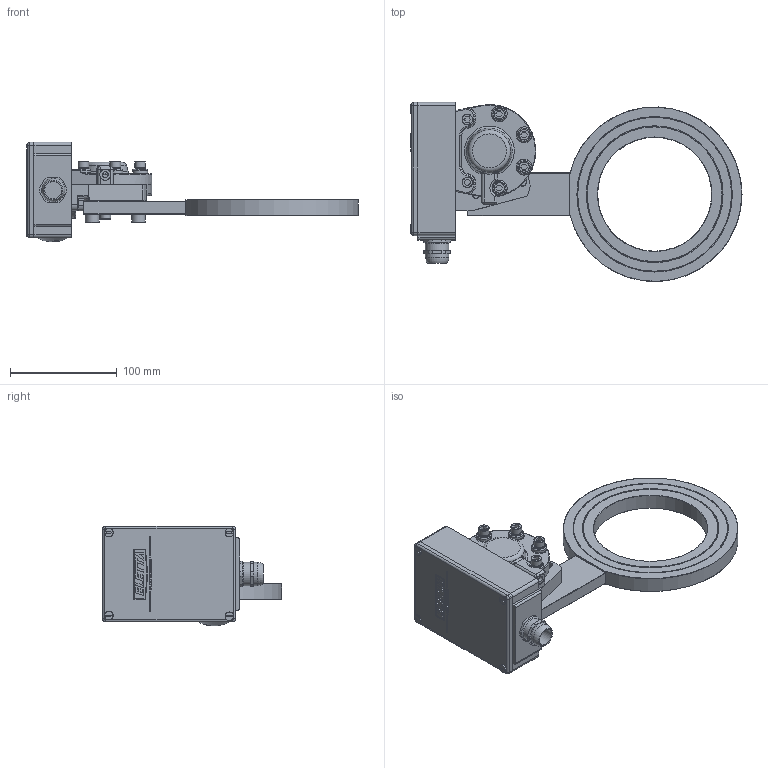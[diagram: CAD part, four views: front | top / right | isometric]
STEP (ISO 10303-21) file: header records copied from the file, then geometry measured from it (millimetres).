
FILE_DESCRIPTION(/* description */ ('Alibre Inc.'),/* implementation_level */ '2;1');
FILE_NAME(/* name */ 'export0',/* time_stamp */ '2012-10-19T13:15:49+02:00',/* author */ (''),/* organization */ (''),/* preprocessor_version */ 'ST-DEVELOPER v14',/* originating_system */ 'Alibre',/* authorisation */ '');
FILE_SCHEMA (('CONFIG_CONTROL_DESIGN'));
Length unit declared in the file: centimetre
Products named in the file (12): ID_1; ID_2; ID_3; ID_4; ID_5; ID_6; ID_7; ID_8
Bounding box: 311.61 x 168.03 x 93.66 mm (x, y, z)
Volume: 492646.1 mm3; surface area: 190821.8 mm2
Topology: 21 solids, 21 shells, 1085 faces, 2568 edges, 1593 vertices
Faces by surface type: plane 538, cylinder 231, bspline 162, cone 76, torus 70, sphere 8
Full cylindrical faces by diameter (mm): 3.9 x2, 5 x22, 5.5 x1, 5.541 x2, 6 x14, 6.038 x2, 6.5 x6, 8 x9, 8.5 x2, 9.6 x6, 10 x11, 10.5 x1, 12 x3, 13 x2, 14 x3, 16 x1, 17.966 x1, 19.5 x1, 22 x2, 22.5 x4, 29 x1, 31 x1, 107 x1, 127 x2, 128 x2, 145 x2, 146 x2
Entity records: 34338 total; most frequent: CARTESIAN_POINT 14030, ORIENTED_EDGE 3988, DIRECTION 3168, EDGE_CURVE 1994, VERTEX_POINT 1333, AXIS2_PLACEMENT_3D 1279, EDGE_LOOP 1159, FACE_BOUND 1159
